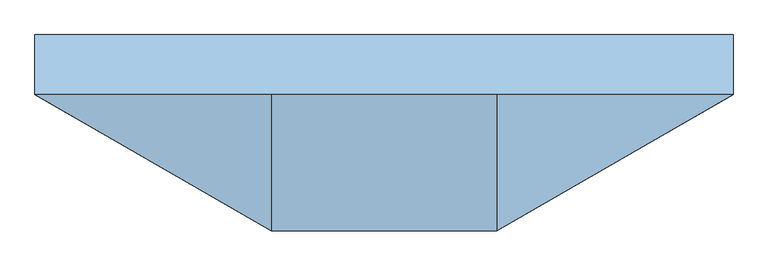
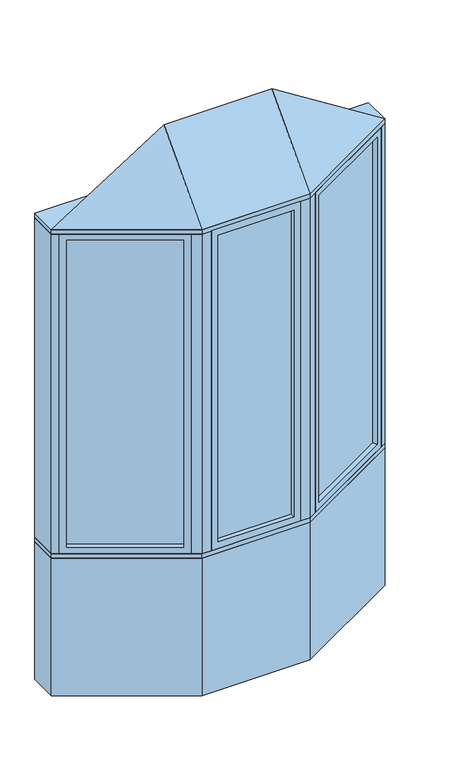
"""IFC4 building model written with IfcOpenShell, lengths in millimetres: window geometry, Pollard_Windows_Tudor Casement Bows and Bays : AML-BAY 30 AFR0518-08-600."""

import ifcopenshell
import ifcopenshell.guid

model = None  # the IFC model being written
_history = None  # IfcOwnerHistory: only IFC2X3 demands one
_inside = {}  # id of a spatial element -> (the spatial element, [elements in it])
_under = {}  # id of a project, library or spatial element -> (it, [spatial elements below it])
_declared = {}  # id of a project -> (the project, [libraries it declares])
_typed = {}  # id of a type object -> (the type object, [elements of that type])
_made_of = {}  # id of a material, layer set ... -> (it, [elements and type objects made of it])


def new_model(schema):
    """Start an empty IFC model of exactly this schema.

    Asked for "IFC4X3", IfcOpenShell would pick the latest addendum, in which some entities
    have other attributes; the version numbers below select the first issue.
    IFC2X3 requires an IfcOwnerHistory on every rooted entity: one is made here for all.
    """
    global model, _history
    if schema == "IFC4X3":
        model = ifcopenshell.file(schema_version=(4, 3, 0, 0))
    else:
        model = ifcopenshell.file(schema=schema)
    _inside.clear()
    _under.clear()
    _declared.clear()
    _typed.clear()
    _made_of.clear()
    _history = None
    if model.schema == "IFC2X3":
        org = make("IfcOrganization", Name="unknown")
        user = make(
            "IfcPersonAndOrganization",
            ThePerson=make("IfcPerson", FamilyName="unknown"),
            TheOrganization=org,
        )
        app = make(
            "IfcApplication",
            ApplicationDeveloper=org,
            Version="unknown",
            ApplicationFullName="unknown",
            ApplicationIdentifier="unknown",
        )
        _history = make(
            "IfcOwnerHistory",
            OwningUser=user,
            OwningApplication=app,
            ChangeAction="ADDED",
            CreationDate=0,
        )
    return model


def make(cls, **values):
    """One entity of the class cls with the attributes given. An attribute that is None is left unset."""
    return model.create_entity(
        cls, **{name: value for name, value in values.items() if value is not None}
    )


def rooted(cls, **values):
    """An entity with a GlobalId (a new one), such as an element, a storey or a relation."""
    return make(cls, GlobalId=ifcopenshell.guid.new(), OwnerHistory=_history, **values)


def si_unit(unit_type, name, prefix=None):
    """IfcSIUnit, for example si_unit("LENGTHUNIT", "METRE", prefix="MILLI")."""
    return make("IfcSIUnit", UnitType=unit_type, Prefix=prefix, Name=name)


def assignment(units):
    """IfcUnitAssignment: the units of a project."""
    return None if units is None else make("IfcUnitAssignment", Units=units)


def point(xyz):
    """IfcCartesianPoint."""
    return None if xyz is None else make("IfcCartesianPoint", Coordinates=xyz)


def direction(xyz):
    """IfcDirection."""
    return None if xyz is None else make("IfcDirection", DirectionRatios=xyz)


def frame(location, z_axis=None, x_axis=None):
    """IfcAxis2Placement3D, a coordinate frame: its origin and axes. An axis left out is left unset."""
    return make(
        "IfcAxis2Placement3D",
        Location=point(location),
        Axis=direction(z_axis),
        RefDirection=direction(x_axis),
    )


def origin():
    """The frame at (0, 0, 0) with its axes left unset."""
    return frame((0.0, 0.0, 0.0))


def origin_with_axes():
    """The frame at (0, 0, 0) with the z axis (0, 0, 1) and the x axis (1, 0, 0) written out."""
    return frame((0.0, 0.0, 0.0), z_axis=(0.0, 0.0, 1.0), x_axis=(1.0, 0.0, 0.0))


def place(relative_to, where):
    """IfcLocalPlacement: puts the frame where relative to a parent placement (None: the world)."""
    return make(
        "IfcLocalPlacement", PlacementRelTo=relative_to, RelativePlacement=where
    )


def context(
    kind, dimensions, precision=None, world=None, true_north=None, identifier=None
):
    """IfcGeometricRepresentationContext, for example the 3D "Model" context."""
    return make(
        "IfcGeometricRepresentationContext",
        ContextIdentifier=identifier,
        ContextType=kind,
        CoordinateSpaceDimension=dimensions,
        Precision=precision,
        WorldCoordinateSystem=world,
        TrueNorth=true_north,
    )


def project(units=None, contexts=None):
    """IfcProject with its units and contexts."""
    return rooted(
        "IfcProject",
        Name="project",
        RepresentationContexts=contexts,
        UnitsInContext=assignment(units),
    )


def spatial(cls, under=None, at=None, **own):
    """A site, building, storey or space (cls), placed at a placement, below another one or the project."""
    s = rooted(cls, ObjectPlacement=at, **own)
    if under is not None:
        _under.setdefault(under.id(), (under, []))[1].append(s)
    return s


def polyline(points):
    """IfcPolyline through the points."""
    return make("IfcPolyline", Points=[point(p) for p in points])


def outline(outer, holes=None, kind="AREA"):
    """IfcArbitraryClosedProfileDef: a profile drawn as a closed curve; with holes, ...WithVoids."""
    if holes is None:
        return make("IfcArbitraryClosedProfileDef", ProfileType=kind, OuterCurve=outer)
    return make(
        "IfcArbitraryProfileDefWithVoids",
        ProfileType=kind,
        OuterCurve=outer,
        InnerCurves=holes,
    )


def extrude(swept, where, along, depth):
    """IfcExtrudedAreaSolid: the profile swept, set in the frame where, extruded along a direction by depth."""
    return make(
        "IfcExtrudedAreaSolid",
        SweptArea=swept,
        Position=where,
        ExtrudedDirection=direction(along),
        Depth=depth,
    )


def faces_of(points, faces, orient=None, outer=None):
    """IfcFace entities. A face is a list of loops; a loop is a list of indices into points, from 0.

    orient and outer hold one flag for each loop. By default every Orientation is true, the
    first loop of a face is its IfcFaceOuterBound and the others are IfcFaceBound.
    """
    made = []
    for i, loops in enumerate(faces):
        bounds = []
        for j, loop in enumerate(loops):
            is_outer = j == 0 if outer is None else outer[i][j]
            bounds.append(
                make(
                    "IfcFaceOuterBound" if is_outer else "IfcFaceBound",
                    Bound=make("IfcPolyLoop", Polygon=[points[k] for k in loop]),
                    Orientation=True if orient is None else orient[i][j],
                )
            )
        made.append(make("IfcFace", Bounds=bounds))
    return made


def faceted_brep(points, faces, orient=None, outer=None, voids=None):
    """IfcFacetedBrep: a solid bounded by flat faces; with voids (closed shells), ...WithVoids."""
    shared = [point(p) for p in points]
    hull = make("IfcClosedShell", CfsFaces=faces_of(shared, faces, orient, outer))
    if voids is None:
        return make("IfcFacetedBrep", Outer=hull)
    return make(
        "IfcFacetedBrepWithVoids",
        Outer=hull,
        Voids=[
            make(cls, CfsFaces=faces_of(shared, fs, o, b)) for cls, fs, o, b in voids
        ],
    )


def shape(context_of_items, identifier, shape_type, items):
    """IfcShapeRepresentation: the items that make up one representation, for example the "Body"."""
    return make(
        "IfcShapeRepresentation",
        ContextOfItems=context_of_items,
        RepresentationIdentifier=identifier,
        RepresentationType=shape_type,
        Items=items,
    )


def source(mapping_origin, context_of_items, identifier, shape_type, items):
    """IfcRepresentationMap: a shape defined once, which mapped items show again and again."""
    return make(
        "IfcRepresentationMap",
        MappingOrigin=mapping_origin,
        MappedRepresentation=shape(context_of_items, identifier, shape_type, items),
    )


def transform(
    local_origin,
    x_axis=None,
    y_axis=None,
    z_axis=None,
    scale=None,
    scale2=None,
    scale3=None,
    uniform=True,
):
    """IfcCartesianTransformationOperator3D, or its non-uniform kind. x_axis, y_axis, z_axis: its Axis1, 2, 3."""
    if uniform:
        return make(
            "IfcCartesianTransformationOperator3D",
            Axis1=direction(x_axis),
            Axis2=direction(y_axis),
            LocalOrigin=point(local_origin),
            Scale=scale,
            Axis3=direction(z_axis),
        )
    return make(
        "IfcCartesianTransformationOperator3DnonUniform",
        Axis1=direction(x_axis),
        Axis2=direction(y_axis),
        LocalOrigin=point(local_origin),
        Scale=scale,
        Axis3=direction(z_axis),
        Scale2=scale2,
        Scale3=scale3,
    )


def mapped(mapping_source, mapping_target):
    """IfcMappedItem: shows the shape of a source again, moved by a transform."""
    return make(
        "IfcMappedItem", MappingSource=mapping_source, MappingTarget=mapping_target
    )


def made_of(thing, what):
    """Note that an element or type object is made of a material, layer set ...; save() writes the relation."""
    if what is not None:
        _made_of.setdefault(what.id(), (what, []))[1].append(thing)
    return thing


def element(
    cls,
    number,
    at=None,
    inside=None,
    cuts=None,
    type_object=None,
    material=None,
    context=None,
    identifier="Body",
    shape_type=None,
    held_by="IfcProductDefinitionShape",
    body=None,
    shapes=None,
    **own,
):
    """One element of the class cls, such as IfcWall. Its Tag is "e" and its number.

    at: its placement. inside: the storey or other place that contains it. cuts: it is an
    opening in that element (IfcRelVoidsElement). A single representation is given by context,
    identifier, shape_type and body (its items); several are given by shapes. held_by: the class
    of the entity that holds the representations. save() writes the other relations.
    """
    e = rooted(cls, Tag="e%d" % number, ObjectPlacement=at, **own)
    if body is not None:
        shapes = [shape(context, identifier, shape_type, body)]
    if shapes is not None:
        e.Representation = make(held_by, Representations=shapes)
    if inside is not None:
        _inside.setdefault(inside.id(), (inside, []))[1].append(e)
    if cuts is not None:
        rooted(
            "IfcRelVoidsElement", RelatingBuildingElement=cuts, RelatedOpeningElement=e
        )
    if type_object is not None:
        _typed.setdefault(type_object.id(), (type_object, []))[1].append(e)
    return made_of(e, material)


def aggregate(whole, parts):
    """IfcRelAggregates: a whole, such as a stair, and the parts it consists of."""
    return rooted("IfcRelAggregates", RelatingObject=whole, RelatedObjects=parts)


def save(model, path):
    """Write the relations noted so far, then the file.

    IfcRelAggregates (storeys below a building ...), IfcRelContainedInSpatialStructure (elements
    in a storey), IfcRelDefinesByType, IfcRelAssociatesMaterial and IfcRelDeclares: one each for
    every whole, place, type object, material and project.
    """
    for whole, parts in _under.values():
        aggregate(whole, parts)
    for where, things in _inside.values():
        rooted(
            "IfcRelContainedInSpatialStructure",
            RelatedElements=things,
            RelatingStructure=where,
        )
    for kind, things in _typed.values():
        rooted("IfcRelDefinesByType", RelatedObjects=things, RelatingType=kind)
    for what, things in _made_of.values():
        rooted("IfcRelAssociatesMaterial", RelatedObjects=things, RelatingMaterial=what)
    for by, libraries in _declared.values():
        rooted("IfcRelDeclares", RelatingContext=by, RelatedDefinitions=libraries)
    model.write(path)


def window_66615fcf(model_context):
    return source(origin(), model_context, "Body", "SolidModel", [
        extrude(outline(polyline([(826.612102, -82.0482469), (338.3834764, -363.9271754), (335.8434764, -359.5277664), (824.072102, -77.6488379), (826.612102, -82.0482469)])), frame((0.0, 0.0, 823.1628), z_axis=(0.0, 0.0, 1.0), x_axis=(1.0, 0.0, 0.0)), (0.0, 0.0, 1.0), 1753.6704),
        faceted_brep([(815.6135794, -88.3982469, 835.8628), (828.3135794, -110.3952922, 835.8628), (828.3135794, -110.3952922, 2564.1332), (815.6135794, -88.3982469, 2564.1332), (824.072102, -77.6488379, 823.1628), (826.612102, -82.0482469, 823.1628), (826.612102, -82.0482469, 2576.8332), (824.072102, -77.6488379, 2576.8332), (800.3735794, -62.0017926, 835.8628), (813.0735794, -83.9988379, 835.8628), (813.0735794, -83.9988379, 2564.1332), (800.3735794, -62.0017926, 2564.1332), (859.3734073, -92.4628922, 799.998), (831.4334073, -44.0693926, 799.998), (831.4334073, -44.0693926, 2599.998), (859.3734073, -92.4628922, 2599.998), (362.081999, -379.5742207, 2564.1332), (349.381999, -357.5771754, 2564.1332), (338.3834764, -363.9271754, 2576.8332), (335.8434764, -359.5277664, 2576.8332), (346.841999, -353.1777664, 2564.1332), (334.141999, -331.1807211, 2564.1332), (303.0821711, -349.1131211, 2599.998), (331.0221711, -397.5066207, 2599.998), (362.081999, -379.5742207, 835.8628), (349.381999, -357.5771754, 835.8628), (338.3834764, -363.9271754, 823.1628), (335.8434764, -359.5277664, 823.1628), (346.841999, -353.1777664, 835.8628), (334.141999, -331.1807211, 835.8628), (303.0821711, -349.1131211, 799.998), (331.0221711, -397.5066207, 799.998)], [[[0, 1, 2, 3]], [[4, 5, 6, 7]], [[8, 9, 10, 11]], [[12, 13, 14, 15]], [[3, 2, 16, 17]], [[7, 6, 18, 19]], [[11, 10, 20, 21]], [[15, 14, 22, 23]], [[17, 16, 24, 25]], [[19, 18, 26, 27]], [[21, 20, 28, 29]], [[23, 22, 30, 31]], [[25, 24, 1, 0]], [[5, 26, 18, 6], [3, 17, 25, 0]], [[27, 26, 5, 4]], [[7, 19, 27, 4], [9, 28, 20, 10]], [[29, 28, 9, 8]], [[13, 30, 22, 14], [11, 21, 29, 8]], [[31, 30, 13, 12]], [[15, 23, 31, 12], [1, 24, 16, 2]]]),
        extrude(outline(polyline([(-338.3834764, -363.9271754), (-826.612102, -82.0482469), (-824.072102, -77.6488379), (-335.8434764, -359.5277664), (-338.3834764, -363.9271754)])), frame((0.0, 0.0, 823.1628), z_axis=(0.0, 0.0, 1.0), x_axis=(1.0, 0.0, 0.0)), (0.0, 0.0, 1.0), 1753.6704),
        faceted_brep([(-346.841999, -353.1777664, 2564.1332), (-334.141999, -331.1807211, 2564.1332), (-334.141999, -331.1807211, 835.8628), (-346.841999, -353.1777664, 835.8628), (-338.3834764, -363.9271754, 2576.8332), (-335.8434764, -359.5277664, 2576.8332), (-335.8434764, -359.5277664, 823.1628), (-338.3834764, -363.9271754, 823.1628), (-362.081999, -379.5742207, 2564.1332), (-349.381999, -357.5771754, 2564.1332), (-349.381999, -357.5771754, 835.8628), (-362.081999, -379.5742207, 835.8628), (-303.0821711, -349.1131211, 2599.998), (-331.0221711, -397.5066207, 2599.998), (-331.0221711, -397.5066207, 799.998), (-303.0821711, -349.1131211, 799.998), (-800.3735794, -62.0017926, 835.8628), (-813.0735794, -83.9988379, 835.8628), (-824.072102, -77.6488379, 823.1628), (-826.612102, -82.0482469, 823.1628), (-815.6135794, -88.3982469, 835.8628), (-828.3135794, -110.3952922, 835.8628), (-859.3734073, -92.4628922, 799.998), (-831.4334073, -44.0693926, 799.998), (-800.3735794, -62.0017926, 2564.1332), (-813.0735794, -83.9988379, 2564.1332), (-824.072102, -77.6488379, 2576.8332), (-826.612102, -82.0482469, 2576.8332), (-815.6135794, -88.3982469, 2564.1332), (-828.3135794, -110.3952922, 2564.1332), (-859.3734073, -92.4628922, 2599.998), (-831.4334073, -44.0693926, 2599.998)], [[[0, 1, 2, 3]], [[4, 5, 6, 7]], [[8, 9, 10, 11]], [[12, 13, 14, 15]], [[3, 2, 16, 17]], [[7, 6, 18, 19]], [[11, 10, 20, 21]], [[15, 14, 22, 23]], [[17, 16, 24, 25]], [[19, 18, 26, 27]], [[21, 20, 28, 29]], [[23, 22, 30, 31]], [[15, 23, 31, 12], [1, 24, 16, 2]], [[25, 24, 1, 0]], [[5, 26, 18, 6], [3, 17, 25, 0]], [[27, 26, 5, 4]], [[7, 19, 27, 4], [9, 28, 20, 10]], [[29, 28, 9, 8]], [[13, 30, 22, 14], [11, 21, 29, 8]], [[31, 30, 13, 12]]]),
        extrude(outline(polyline([(214.5561009, -397.1066207), (-214.5561009, -397.1066207), (-214.5561009, -392.0266207), (214.5561009, -392.0266207), (214.5561009, -397.1066207)])), frame((0.0, 0.0, 823.1628), z_axis=(0.0, 0.0, 1.0), x_axis=(1.0, 0.0, 0.0)), (0.0, 0.0, 1.0), 1753.6704),
        faceted_brep([(201.8561009, -397.1066207, 835.8628), (201.8561009, -422.5066207, 835.8628), (201.8561009, -422.5066207, 2564.1332), (201.8561009, -397.1066207, 2564.1332), (214.5561009, -392.0266207, 823.1628), (214.5561009, -397.1066207, 823.1628), (214.5561009, -397.1066207, 2576.8332), (214.5561009, -392.0266207, 2576.8332), (201.8561009, -366.6266207, 835.8628), (201.8561009, -392.0266207, 835.8628), (201.8561009, -392.0266207, 2564.1332), (201.8561009, -366.6266207, 2564.1332), (237.7209009, -422.5066207, 799.998), (237.7209009, -366.6266207, 799.998), (237.7209009, -366.6266207, 2599.998), (237.7209009, -422.5066207, 2599.998), (-201.8561009, -422.5066207, 2564.1332), (-201.8561009, -397.1066207, 2564.1332), (-214.5561009, -397.1066207, 2576.8332), (-214.5561009, -392.0266207, 2576.8332), (-201.8561009, -392.0266207, 2564.1332), (-201.8561009, -366.6266207, 2564.1332), (-237.7209009, -366.6266207, 2599.998), (-237.7209009, -422.5066207, 2599.998), (-201.8561009, -422.5066207, 835.8628), (-201.8561009, -397.1066207, 835.8628), (-214.5561009, -397.1066207, 823.1628), (-214.5561009, -392.0266207, 823.1628), (-201.8561009, -392.0266207, 835.8628), (-201.8561009, -366.6266207, 835.8628), (-237.7209009, -366.6266207, 799.998), (-237.7209009, -422.5066207, 799.998)], [[[0, 1, 2, 3]], [[4, 5, 6, 7]], [[8, 9, 10, 11]], [[12, 13, 14, 15]], [[3, 2, 16, 17]], [[7, 6, 18, 19]], [[11, 10, 20, 21]], [[15, 14, 22, 23]], [[17, 16, 24, 25]], [[19, 18, 26, 27]], [[21, 20, 28, 29]], [[23, 22, 30, 31]], [[15, 23, 31, 12], [1, 24, 16, 2]], [[25, 24, 1, 0]], [[5, 26, 18, 6], [3, 17, 25, 0]], [[27, 26, 5, 4]], [[7, 19, 27, 4], [9, 28, 20, 10]], [[29, 28, 9, 8]], [[13, 30, 22, 14], [11, 21, 29, 8]], [[31, 30, 13, 12]]]),
        faceted_brep([(890.0, -74.7806207, 2625.398), (287.7209009, -422.5066207, 2625.398), (-287.7209009, -422.5066207, 2625.398), (-890.0, -74.7806207, 2625.398), (-287.7209009, -74.7806207, 3006.398), (287.7209009, -74.7806207, 3006.398)], [[[0, 1, 2, 3]], [[3, 2, 4]], [[2, 1, 5, 4]], [[1, 0, 5]], [[0, 3, 4, 5]]]),
        extrude(outline(polyline([(-890.0, 77.6193793), (890.0, 77.6193793), (890.0, -74.7806207), (287.7209009, -422.5066207), (-287.7209009, -422.5066207), (-890.0, -74.7806207), (-890.0, 77.6193793)])), frame((0.0, 0.0, 2599.998), z_axis=(0.0, 0.0, 1.0), x_axis=(1.0, 0.0, 0.0)), (0.0, 0.0, 1.0), 25.4),
        extrude(outline(polyline([(-890.0, -74.7806207), (-890.0, 77.6193793), (-849.1645431, 77.6193793), (-849.1645431, -74.7806207), (-859.3734073, -92.4628922), (-890.0, -74.7806207)])), frame((0.0, 0.0, 799.998), z_axis=(0.0, 0.0, 1.0), x_axis=(1.0, 0.0, 0.0)), (0.0, 0.0, 1.0), 1800.0),
        extrude(outline(polyline([(890.0, 77.6193793), (890.0, -74.7806207), (859.3734073, -92.4628922), (849.1645431, -74.7806207), (849.1645431, 77.6193793), (890.0, 77.6193793)])), frame((0.0, 0.0, 799.998), z_axis=(0.0, 0.0, 1.0), x_axis=(1.0, 0.0, 0.0)), (0.0, 0.0, 1.0), 1800.0),
        extrude(outline(polyline([(287.7209009, -422.5066207), (237.7209009, -422.5066207), (237.7209009, -372.5066207), (274.3234413, -372.5066207), (306.0221711, -354.2053505), (331.0221711, -397.5066207), (287.7209009, -422.5066207)])), frame((0.0, 0.0, 799.998), z_axis=(0.0, 0.0, 1.0), x_axis=(1.0, 0.0, 0.0)), (0.0, 0.0, 1.0), 1800.0),
        extrude(outline(polyline([(-287.7209009, -422.5066207), (-331.0221711, -397.5066207), (-306.0221711, -354.2053505), (-274.3234413, -372.5066207), (-237.7209009, -372.5066207), (-237.7209009, -422.5066207), (-287.7209009, -422.5066207)])), frame((0.0, 0.0, 799.998), z_axis=(0.0, 0.0, 1.0), x_axis=(1.0, 0.0, 0.0)), (0.0, 0.0, 1.0), 1800.0),
        extrude(outline(polyline([(-287.7209009, -422.5066207), (-890.0, -74.7806207), (-890.0, 77.6193793), (-849.1645431, 77.6193793), (-246.885444, -270.1066207), (246.885444, -270.1066207), (849.1645431, 77.6193793), (890.0, 77.6193793), (890.0, -74.7806207), (287.7209009, -422.5066207), (-287.7209009, -422.5066207)])), frame((0.0, 0.0, 774.598), z_axis=(0.0, 0.0, 1.0), x_axis=(1.0, 0.0, 0.0)), (0.0, 0.0, 1.0), 25.4),
        extrude(outline(polyline([(-890.0, -74.7806207), (-890.0, 77.6193793), (-849.1645431, 77.6193793), (-246.885444, -270.1066207), (246.885444, -270.1066207), (849.1645431, 77.6193793), (890.0, 77.6193793), (890.0, -74.7806207), (287.7209009, -422.5066207), (-287.7209009, -422.5066207), (-890.0, -74.7806207)])), origin_with_axes(), (0.0, 0.0, 1.0), 774.598),
    ])


if __name__ == "__main__":
    model = new_model("IFC4")
    model_context = context("Model", 3, world=origin())
    ifc_project = project(units=[si_unit("LENGTHUNIT", "METRE", prefix="MILLI")], contexts=[model_context])
    site = spatial("IfcSite", under=ifc_project)
    building = spatial("IfcBuilding", under=site)
    placement = place(None, origin())
    window_shape = window_66615fcf(model_context)
    element("IfcWindow", 1, ObjectType="Pollard_Windows_Tudor Casement Bows and Bays : AML-BAY 30 AFR0518-08-600", at=placement, inside=building, context=model_context, shape_type="MappedRepresentation", body=[
        mapped(window_shape, transform((0.0, 0.0, 0.0), x_axis=(1.0, 0.0, 0.0), y_axis=(0.0, 1.0, 0.0), z_axis=(0.0, 0.0, 1.0))),
    ])
    save(model, "model.ifc")
